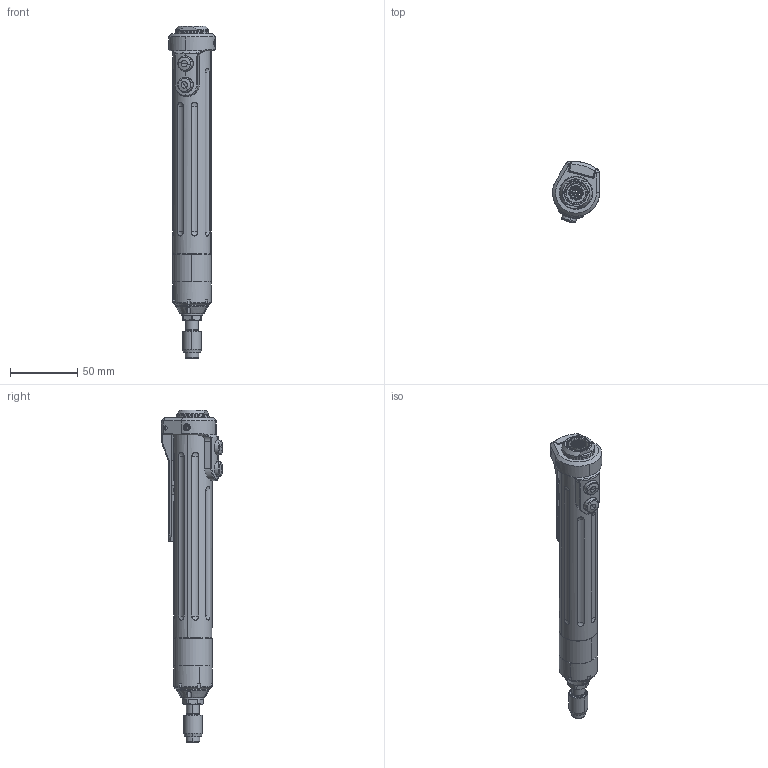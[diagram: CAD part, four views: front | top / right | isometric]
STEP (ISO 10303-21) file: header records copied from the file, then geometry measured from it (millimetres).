
FILE_DESCRIPTION (( 'STEP AP203' ), '1' );
FILE_NAME ('ASG-SD2500-50PL.STEP', '2012-02-29T19:37:27', ( '' ), ( '' ), 'SwSTEP 2.0', 'SolidWorks 2012', '' );
FILE_SCHEMA (( 'CONFIG_CONTROL_DESIGN' ));
Length unit declared in the file: inch
Products named in the file (1): ASG-SD2500-50PL
Bounding box: 34.92 x 45.67 x 247.37 mm (x, y, z)
Surface area: 36493.3 mm2 (no closed solid volume)
Topology: 0 solids, 32 shells, 461 faces, 1342 edges, 889 vertices
Faces by surface type: cylinder 163, plane 92, torus 78, cone 58, bspline 58, sphere 12
Entity records: 28862 total; most frequent: CARTESIAN_POINT 17130, DIRECTION 2426, ORIENTED_EDGE 2347, EDGE_CURVE 1324, AXIS2_PLACEMENT_3D 1028, VERTEX_POINT 883, CIRCLE 624, EDGE_LOOP 528
